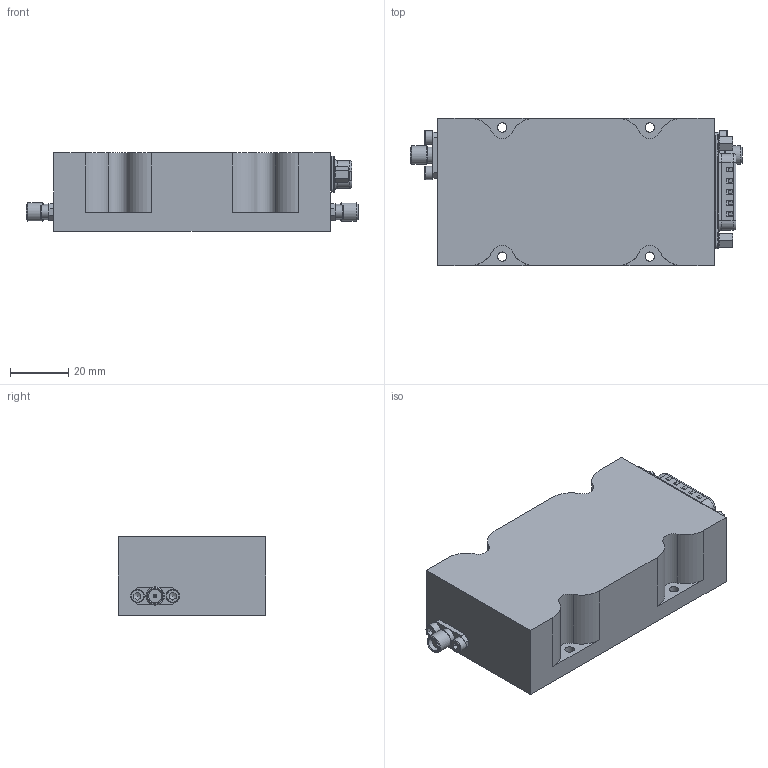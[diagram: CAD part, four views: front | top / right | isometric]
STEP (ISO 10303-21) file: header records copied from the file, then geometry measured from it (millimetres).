
FILE_DESCRIPTION((''),'2;1');
FILE_NAME('\\SERPENTOR\Engineering\ENG\Models\TAxxxx\TA1003 30-2500 MHz 8W GaN\Inventor\102.stp','2015-07-29T16:04:33',('dcampbell'),(''),'Autodesk Inventor 2013','Autodesk Inventor 2013','');
FILE_SCHEMA(('AUTOMOTIVE_DESIGN { 1 0 10303 214 1 1 1 1 }'));
Length unit declared in the file: inch
Products named in the file (7): 3D_TA1003; TA1003_HSG_3D; SMA; 7W2; PIN; JS; Hexagon Socket Head Cap Screw - Inch No. 4 - 40 UNC - 1/4
Assembly tree (12 placements, depth 2):
  3D_TA1003
    TA1003_HSG_3D
    SMA  x2
    7W2
    PIN  x2
    JS  x2
    Hexagon Socket Head Cap Screw - Inch No. 4 - 40 UNC - 1/4  x4
Bounding box: 114.3 x 50.8 x 27 mm (x, y, z)
Volume: 128135.9 mm3; surface area: 24060.7 mm2
Topology: 12 solids, 12 shells, 651 faces, 1576 edges, 1012 vertices
Faces by surface type: plane 370, cylinder 188, torus 41, cone 38, bspline 7, sphere 7
Full cylindrical faces by diameter (mm): 0.737 x2, 1 x10, 1.245 x2, 1.27 x2, 1.295 x2, 1.6 x5, 1.702 x4, 2.159 x2, 2.261 x2, 2.591 x4, 2.769 x2, 2.845 x4, 3 x2, 3.175 x4, 3.6 x4, 4.597 x2, 4.6 x2, 4.648 x4, 4.73 x4, 5.28 x2, 5.486 x4, 5.5 x2, 6.35 x2
Entity records: 16352 total; most frequent: CARTESIAN_POINT 3499, DIRECTION 2632, ORIENTED_EDGE 2448, EDGE_CURVE 1224, AXIS2_PLACEMENT_3D 931, VERTEX_POINT 826, VECTOR 770, LINE 770
